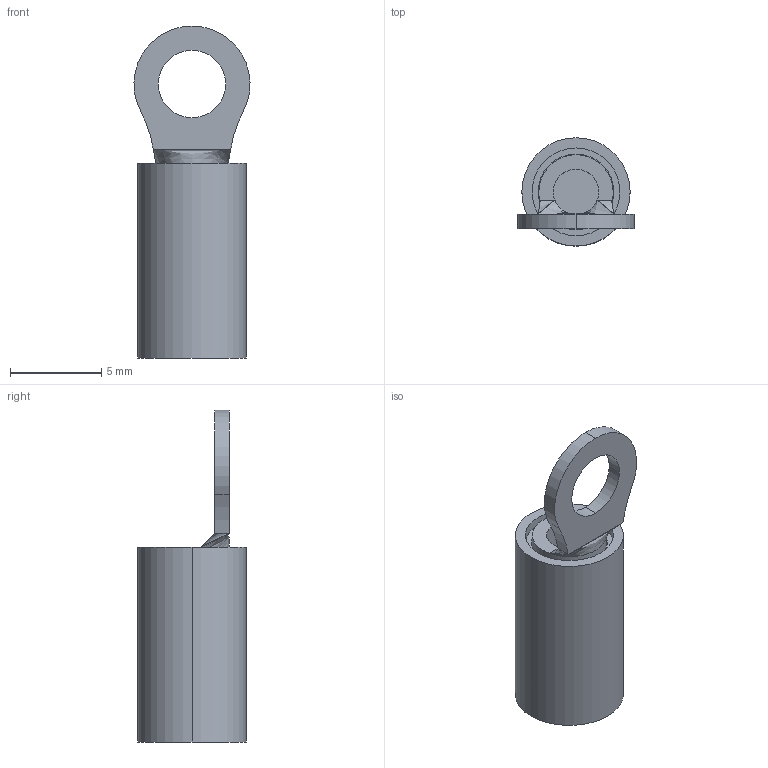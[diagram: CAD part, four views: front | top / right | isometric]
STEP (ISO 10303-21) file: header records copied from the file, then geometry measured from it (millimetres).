
FILE_DESCRIPTION (( 'STEP AP214' ), '1' );
FILE_NAME ('320619.STEP', '2013-04-05T12:25:54', ( 'Tester2' ), ( '' ), 'SwSTEP 2.0', 'SolidWorks 2012', '' );
FILE_SCHEMA (( 'AUTOMOTIVE_DESIGN' ));
Length unit declared in the file: millimetre
Products named in the file (1): 320619
Bounding box: 6.35 x 5.92 x 18.16 mm (x, y, z)
Volume: 269.6 mm3; surface area: 486.5 mm2
Topology: 1 solids, 1 shells, 31 faces, 69 edges, 44 vertices
Faces by surface type: cylinder 18, plane 9, bspline 4
Entity records: 1151 total; most frequent: CARTESIAN_POINT 295, DIRECTION 159, ORIENTED_EDGE 138, EDGE_CURVE 69, AXIS2_PLACEMENT_3D 66, VERTEX_POINT 44, CIRCLE 38, EDGE_LOOP 37
